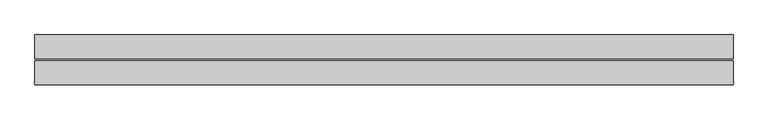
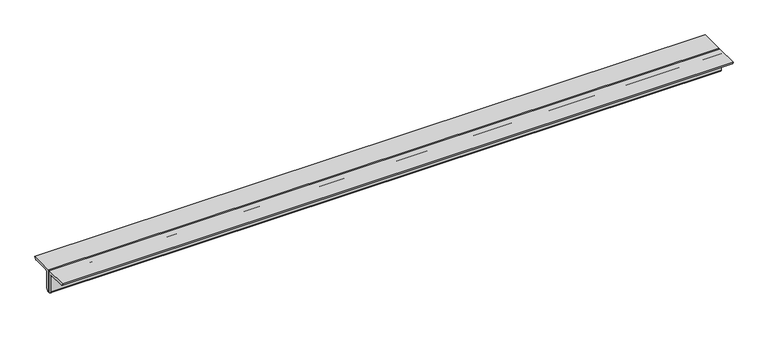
"""IFC4 building model written with IfcOpenShell, lengths in millimetres: beam geometry, Profilati doppi a L : DCED150x12."""

from ifc_helpers import new_model, si_unit, point, frame, frame_2d, origin, place, context, project, spatial, polyline, circle_curve, trimmed, segment, composite_curve, outline, extrude, source, transform, mapped, element, save


def beam_805ead73(model_context):
    return source(origin(), model_context, "Body", "SweptSolid", [
        extrude(outline(composite_curve([segment(polyline([(6.0, 42.4), (156.0, 42.4)]), True, "CONTINUOUS"), segment(trimmed(circle_curve(frame_2d((141.0, 42.4)), 15.0), [point((156.0, 42.4))], [point((141.0, 27.4))], False, "CARTESIAN"), True, "CONTINUOUS"), segment(polyline([(141.0, 27.4), (36.0, 27.4)]), True, "CONTINUOUS"), segment(trimmed(circle_curve(frame_2d((36.0, 12.4)), 15.0), [point((36.0, 27.4))], [point((21.0, 12.4))], True, "CARTESIAN"), True, "CONTINUOUS"), segment(polyline([(21.0, 12.4), (21.0, -92.6)]), True, "CONTINUOUS"), segment(trimmed(circle_curve(frame_2d((6.0, -92.6)), 15.0), [point((21.0, -92.6))], [point((6.0, -107.6))], False, "CARTESIAN"), True, "CONTINUOUS"), segment(polyline([(6.0, -107.6), (6.0, 42.4)]), True, "CONTINUOUS")], self_intersect=False)), frame((-2115.0, 0.0, 0.0), z_axis=(1.0, 0.0, 0.0), x_axis=(0.0, 1.0, 0.0)), (0.0, 0.0, 1.0), 4353.0),
        extrude(outline(composite_curve([segment(polyline([(-6.0, 42.4), (-6.0, -107.6)]), True, "CONTINUOUS"), segment(trimmed(circle_curve(frame_2d((-6.0, -92.6)), 15.0), [point((-6.0, -107.6))], [point((-21.0, -92.6))], False, "CARTESIAN"), True, "CONTINUOUS"), segment(polyline([(-21.0, -92.6), (-21.0, 12.4)]), True, "CONTINUOUS"), segment(trimmed(circle_curve(frame_2d((-36.0, 12.4)), 15.0), [point((-21.0, 12.4))], [point((-36.0, 27.4))], True, "CARTESIAN"), True, "CONTINUOUS"), segment(polyline([(-36.0, 27.4), (-141.0, 27.4)]), True, "CONTINUOUS"), segment(trimmed(circle_curve(frame_2d((-141.0, 42.4)), 15.0), [point((-141.0, 27.4))], [point((-156.0, 42.4))], False, "CARTESIAN"), True, "CONTINUOUS"), segment(polyline([(-156.0, 42.4), (-6.0, 42.4)]), True, "CONTINUOUS")], self_intersect=False)), frame((-2115.0, 0.0, 0.0), z_axis=(1.0, 0.0, 0.0), x_axis=(0.0, 1.0, 0.0)), (0.0, 0.0, 1.0), 4353.0),
    ])


if __name__ == "__main__":
    model = new_model("IFC4")
    model_context = context("Model", 3, world=origin())
    ifc_project = project(units=[si_unit("LENGTHUNIT", "METRE", prefix="MILLI")], contexts=[model_context])
    site = spatial("IfcSite", under=ifc_project)
    building = spatial("IfcBuilding", under=site)
    placement = place(None, origin())
    beam_shape = beam_805ead73(model_context)
    element("IfcBeam", 1, ObjectType="Profilati doppi a L : DCED150x12", at=placement, inside=building, context=model_context, shape_type="MappedRepresentation", body=[
        mapped(beam_shape, transform((0.0, 0.0, 0.0), x_axis=(1.0, 0.0, 0.0), y_axis=(0.0, 1.0, 0.0), z_axis=(0.0, 0.0, 1.0))),
    ])
    save(model, "model.ifc")
